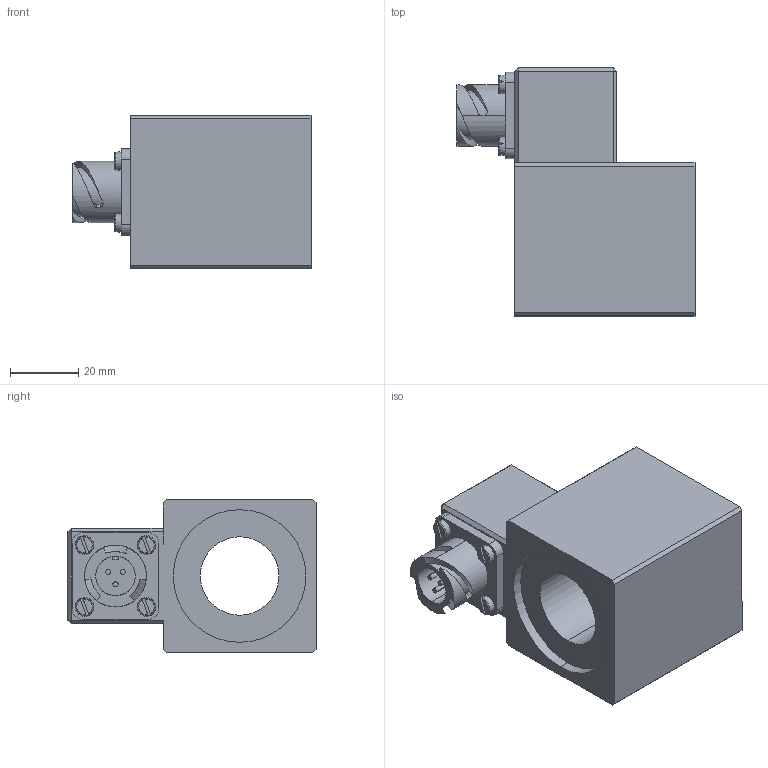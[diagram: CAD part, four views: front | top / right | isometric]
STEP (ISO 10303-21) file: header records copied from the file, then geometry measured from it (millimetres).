
FILE_DESCRIPTION (( 'STEP AP214' ), '1' );
FILE_NAME ('MBS45_23x50-DC.STEP', '2015-07-16T12:41:34', ( '' ), ( '' ), 'SwSTEP 2.0', 'SolidWorks 2014', '' );
FILE_SCHEMA (( 'AUTOMOTIVE_DESIGN' ));
Length unit declared in the file: millimetre
Products named in the file (2): MBS45_23x50-DC
Bounding box: 70 x 73 x 45 mm (x, y, z)
Volume: 109620.8 mm3; surface area: 24134.6 mm2
Topology: 5 solids, 8 shells, 294 faces, 728 edges, 460 vertices
Faces by surface type: plane 141, cylinder 88, cone 32, torus 24, bspline 9
Entity records: 12570 total; most frequent: CARTESIAN_POINT 2442, DIRECTION 1461, ORIENTED_EDGE 1436, EDGE_CURVE 718, AXIS2_PLACEMENT_3D 568, VERTEX_POINT 460, EDGE_LOOP 328, LINE 325
